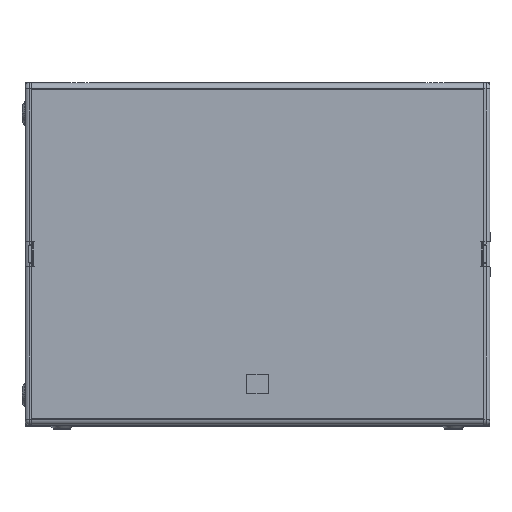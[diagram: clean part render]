
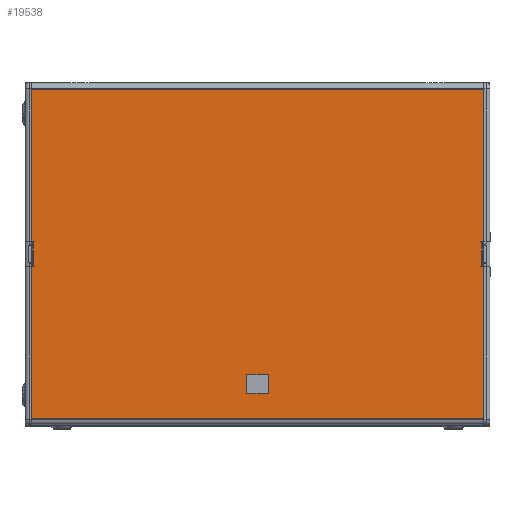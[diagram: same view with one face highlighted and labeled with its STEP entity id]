
A CAD part, top view. The second image highlights one B-rep face of the part: STEP entity #19538.
In plain terms, the highlighted planar face has unit normal (0, 0, 1).
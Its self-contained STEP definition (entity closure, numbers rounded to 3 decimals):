
#1958 = PLANE ( 'NONE',  #60747 ) ;
#1959 = CARTESIAN_POINT ( 'NONE',  ( -349.589, -43.813, 0.5 ) ) ;
#1960 = DIRECTION ( 'NONE',  ( 0., 0., 1. ) ) ;
#1961 = DIRECTION ( 'NONE',  ( 1., 0., 0. ) ) ;
#2911 = FACE_BOUND ( 'NONE', #61813, .T. ) ;
#2912 = FACE_OUTER_BOUND ( 'NONE', #61817, .T. ) ;
#11974 = CARTESIAN_POINT ( 'NONE',  ( -349.589, 505.187, 0.5 ) ) ;
#11976 = CARTESIAN_POINT ( 'NONE',  ( -349.589, -33.813, 0.5 ) ) ;
#11993 = CARTESIAN_POINT ( 'NONE',  ( 390.411, 505.187, 0.5 ) ) ;
#11995 = CARTESIAN_POINT ( 'NONE',  ( 390.411, -33.813, 0.5 ) ) ;
#12168 = CARTESIAN_POINT ( 'NONE',  ( 37.911, 8.187, 0.5 ) ) ;
#12170 = CARTESIAN_POINT ( 'NONE',  ( 38.911, 9.187, 0.5 ) ) ;
#12172 = CARTESIAN_POINT ( 'NONE',  ( 2.911, 8.187, 0.5 ) ) ;
#12173 = CARTESIAN_POINT ( 'NONE',  ( 1.911, 9.187, 0.5 ) ) ;
#12175 = CARTESIAN_POINT ( 'NONE',  ( 1.911, 37.187, 0.5 ) ) ;
#12177 = CARTESIAN_POINT ( 'NONE',  ( 2.911, 38.187, 0.5 ) ) ;
#12178 = CARTESIAN_POINT ( 'NONE',  ( 37.911, 38.187, 0.5 ) ) ;
#12180 = CARTESIAN_POINT ( 'NONE',  ( 38.911, 37.187, 0.5 ) ) ;
#12965 = EDGE_CURVE ( 'NONE', #29881, #29882, #67428, .T. ) ;
#12982 = EDGE_CURVE ( 'NONE', #29898, #29896, #67455, .T. ) ;
#13921 = CARTESIAN_POINT ( 'NONE',  ( 37.911, 9.187, 0.5 ) ) ;
#13922 = DIRECTION ( 'NONE',  ( 0., 0., 1. ) ) ;
#13923 = DIRECTION ( 'NONE',  ( 1., 0., 0. ) ) ;
#13924 = CARTESIAN_POINT ( 'NONE',  ( 2.911, 8.187, 0.5 ) ) ;
#13925 = DIRECTION ( 'NONE',  ( 1., 0., 0. ) ) ;
#13926 = CARTESIAN_POINT ( 'NONE',  ( 2.911, 9.187, 0.5 ) ) ;
#13927 = DIRECTION ( 'NONE',  ( 0., 0., 1. ) ) ;
#13928 = DIRECTION ( 'NONE',  ( 1., 0., 0. ) ) ;
#13929 = CARTESIAN_POINT ( 'NONE',  ( 1.911, 37.187, 0.5 ) ) ;
#13930 = DIRECTION ( 'NONE',  ( 0., -1., 0. ) ) ;
#13931 = CARTESIAN_POINT ( 'NONE',  ( 2.911, 37.187, 0.5 ) ) ;
#13932 = DIRECTION ( 'NONE',  ( 0., 0., 1. ) ) ;
#13933 = DIRECTION ( 'NONE',  ( 1., 0., 0. ) ) ;
#13934 = CARTESIAN_POINT ( 'NONE',  ( 2.911, 38.187, 0.5 ) ) ;
#13935 = DIRECTION ( 'NONE',  ( -1., 0., 0. ) ) ;
#13936 = CARTESIAN_POINT ( 'NONE',  ( 37.911, 37.187, 0.5 ) ) ;
#13937 = DIRECTION ( 'NONE',  ( 0., 0., 1. ) ) ;
#13938 = DIRECTION ( 'NONE',  ( -1., 0., 0. ) ) ;
#13939 = CARTESIAN_POINT ( 'NONE',  ( 38.911, 37.187, 0.5 ) ) ;
#13940 = DIRECTION ( 'NONE',  ( 0., 1., 0. ) ) ;
#13941 = CARTESIAN_POINT ( 'NONE',  ( -349.589, 505.187, 0.5 ) ) ;
#13942 = DIRECTION ( 'NONE',  ( -1., 0., 0. ) ) ;
#13943 = CARTESIAN_POINT ( 'NONE',  ( 390.411, -33.813, 0.5 ) ) ;
#13944 = DIRECTION ( 'NONE',  ( 1., 0., 0. ) ) ;
#14518 = LINE ( 'NONE', #13924, #14520 ) ;
#14519 = CIRCLE ( 'NONE', #15541, 1. ) ;
#14520 = VECTOR ( 'NONE', #13925, 1000. ) ;
#14521 = LINE ( 'NONE', #13929, #14523 ) ;
#14522 = CIRCLE ( 'NONE', #15542, 1. ) ;
#14523 = VECTOR ( 'NONE', #13930, 1000. ) ;
#14524 = LINE ( 'NONE', #13934, #14526 ) ;
#14525 = CIRCLE ( 'NONE', #15543, 1. ) ;
#14526 = VECTOR ( 'NONE', #13935, 1000. ) ;
#14527 = LINE ( 'NONE', #13939, #14529 ) ;
#14528 = CIRCLE ( 'NONE', #15544, 1. ) ;
#14529 = VECTOR ( 'NONE', #13940, 1000. ) ;
#14530 = LINE ( 'NONE', #13941, #14531 ) ;
#14531 = VECTOR ( 'NONE', #13942, 1000. ) ;
#14532 = LINE ( 'NONE', #13943, #14533 ) ;
#14533 = VECTOR ( 'NONE', #13944, 1000. ) ;
#15541 = AXIS2_PLACEMENT_3D ( 'NONE', #13921, #13922, #13923 ) ;
#15542 = AXIS2_PLACEMENT_3D ( 'NONE', #13926, #13927, #13928 ) ;
#15543 = AXIS2_PLACEMENT_3D ( 'NONE', #13931, #13932, #13933 ) ;
#15544 = AXIS2_PLACEMENT_3D ( 'NONE', #13936, #13937, #13938 ) ;
#19538 = ADVANCED_FACE ( 'NONE', ( #2911, #2912 ), #1958, .T. ) ;
#29881 = VERTEX_POINT ( 'NONE', #11974 ) ;
#29882 = VERTEX_POINT ( 'NONE', #11976 ) ;
#29896 = VERTEX_POINT ( 'NONE', #11993 ) ;
#29898 = VERTEX_POINT ( 'NONE', #11995 ) ;
#30051 = VERTEX_POINT ( 'NONE', #12168 ) ;
#30052 = VERTEX_POINT ( 'NONE', #12170 ) ;
#30054 = VERTEX_POINT ( 'NONE', #12172 ) ;
#30055 = VERTEX_POINT ( 'NONE', #12173 ) ;
#30057 = VERTEX_POINT ( 'NONE', #12175 ) ;
#30058 = VERTEX_POINT ( 'NONE', #12177 ) ;
#30059 = VERTEX_POINT ( 'NONE', #12178 ) ;
#30061 = VERTEX_POINT ( 'NONE', #12180 ) ;
#32381 = ORIENTED_EDGE ( 'NONE', *, *, #32690, .F. ) ;
#32382 = ORIENTED_EDGE ( 'NONE', *, *, #32691, .F. ) ;
#32383 = ORIENTED_EDGE ( 'NONE', *, *, #32692, .F. ) ;
#32384 = ORIENTED_EDGE ( 'NONE', *, *, #32693, .F. ) ;
#32385 = ORIENTED_EDGE ( 'NONE', *, *, #32694, .F. ) ;
#32386 = ORIENTED_EDGE ( 'NONE', *, *, #32695, .F. ) ;
#32387 = ORIENTED_EDGE ( 'NONE', *, *, #32696, .F. ) ;
#32388 = ORIENTED_EDGE ( 'NONE', *, *, #32697, .F. ) ;
#32389 = ORIENTED_EDGE ( 'NONE', *, *, #12982, .T. ) ;
#32390 = ORIENTED_EDGE ( 'NONE', *, *, #32698, .T. ) ;
#32391 = ORIENTED_EDGE ( 'NONE', *, *, #12965, .T. ) ;
#32392 = ORIENTED_EDGE ( 'NONE', *, *, #32699, .T. ) ;
#32690 = EDGE_CURVE ( 'NONE', #30051, #30052, #14519, .T. ) ;
#32691 = EDGE_CURVE ( 'NONE', #30054, #30051, #14518, .T. ) ;
#32692 = EDGE_CURVE ( 'NONE', #30055, #30054, #14522, .T. ) ;
#32693 = EDGE_CURVE ( 'NONE', #30057, #30055, #14521, .T. ) ;
#32694 = EDGE_CURVE ( 'NONE', #30058, #30057, #14525, .T. ) ;
#32695 = EDGE_CURVE ( 'NONE', #30059, #30058, #14524, .T. ) ;
#32696 = EDGE_CURVE ( 'NONE', #30061, #30059, #14528, .T. ) ;
#32697 = EDGE_CURVE ( 'NONE', #30052, #30061, #14527, .T. ) ;
#32698 = EDGE_CURVE ( 'NONE', #29896, #29881, #14530, .T. ) ;
#32699 = EDGE_CURVE ( 'NONE', #29882, #29898, #14532, .T. ) ;
#60747 = AXIS2_PLACEMENT_3D ( 'NONE', #1959, #1960, #1961 ) ;
#61813 = EDGE_LOOP ( 'NONE', ( #32381, #32382, #32383, #32384, #32385, #32386, #32387, #32388 ) ) ;
#61817 = EDGE_LOOP ( 'NONE', ( #32389, #32390, #32391, #32392 ) ) ;
#66725 = CARTESIAN_POINT ( 'NONE',  ( -349.589, 515.187, 0.5 ) ) ;
#66726 = DIRECTION ( 'NONE',  ( 0., -1., 0. ) ) ;
#66765 = CARTESIAN_POINT ( 'NONE',  ( 390.411, 515.187, 0.5 ) ) ;
#66766 = DIRECTION ( 'NONE',  ( 0., 1., 0. ) ) ;
#67428 = LINE ( 'NONE', #66725, #67429 ) ;
#67429 = VECTOR ( 'NONE', #66726, 1000. ) ;
#67455 = LINE ( 'NONE', #66765, #67457 ) ;
#67457 = VECTOR ( 'NONE', #66766, 1000. ) ;
